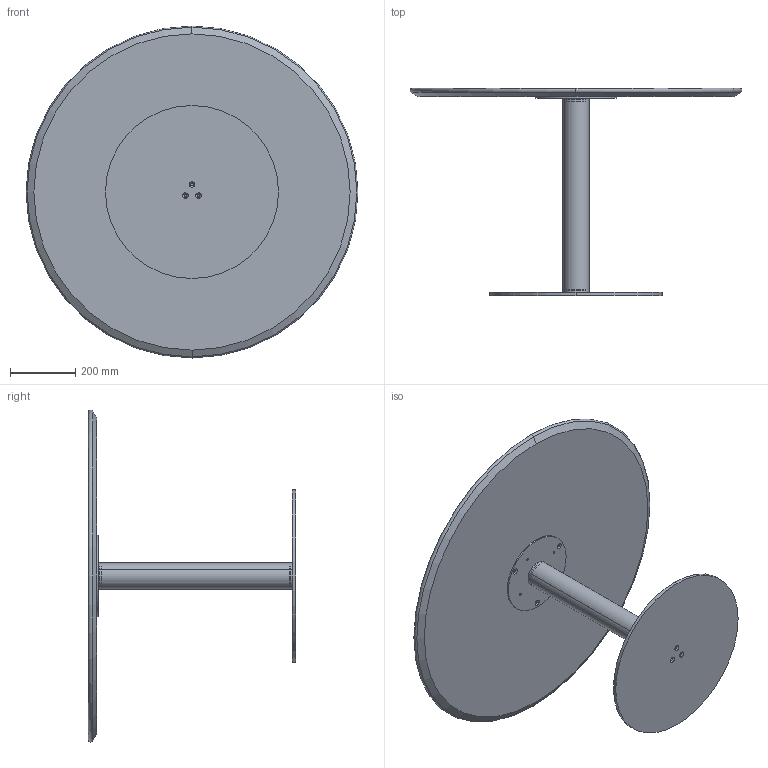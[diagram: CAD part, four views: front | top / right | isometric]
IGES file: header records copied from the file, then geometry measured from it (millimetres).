
Start section: SolidWorks IGES file using analytic representation for surfaces
Global section: file name: Y:\eforma\TECNICO\SOLIDWORKS\E-FORMA\5-TAVOLINI BISTRO\CILINDRO BISTRÒ H63\02 parts\CB35A.IGS; native system: SolidWorks 2022; preprocessor: SolidWorks 2022; author: eforma.tech; date: 240808.110143; units: millimetre
Bounding box: 1016.79 x 635 x 1017 mm (x, y, z)
Volume: 25644901.3 mm3; surface area: 4155057.4 mm2
Topology: 7 solids, 7 shells, 107 faces, 248 edges, 156 vertices
Faces by surface type: revolution 92, plane 15
